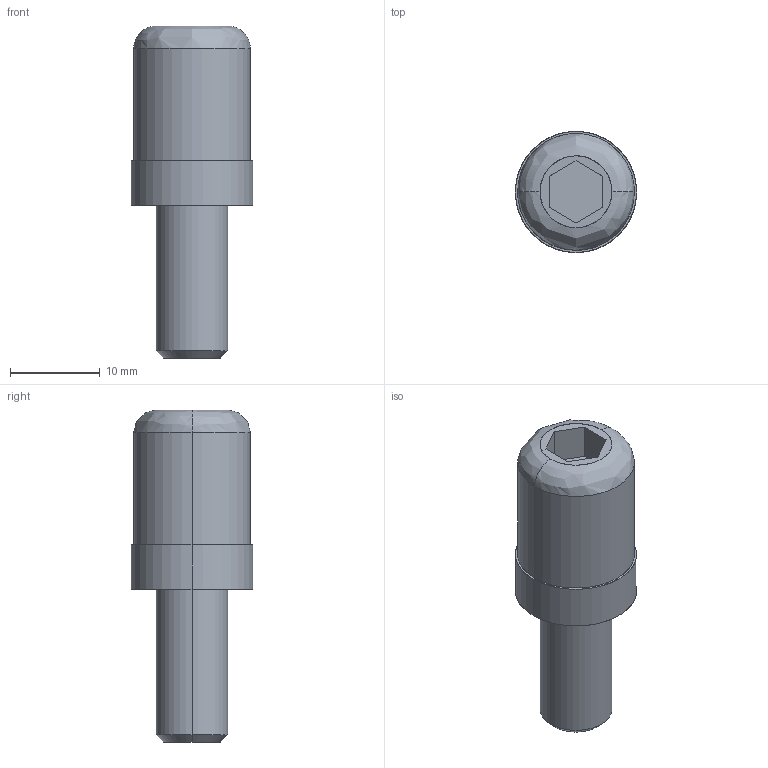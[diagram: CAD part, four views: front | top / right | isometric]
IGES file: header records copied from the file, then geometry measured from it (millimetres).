
Global section: file name: E:\UnigraphicsGraphicData\MISUMI_PRESS-PARTS\IGES\3d_sga13.5-20_00786_r00.igs; native system: NX V5.0; preprocessor: UGS NX IGES V5.0; author: MISUMI; date: 20110105.162529; units: millimetre
Bounding box: 13.5 x 13.5 x 37 mm (x, y, z)
Surface area: 1562.7 mm2 (no closed solid volume)
Topology: 0 solids, 0 shells, 21 faces, 124 edges, 124 vertices
Faces by surface type: bspline 21
